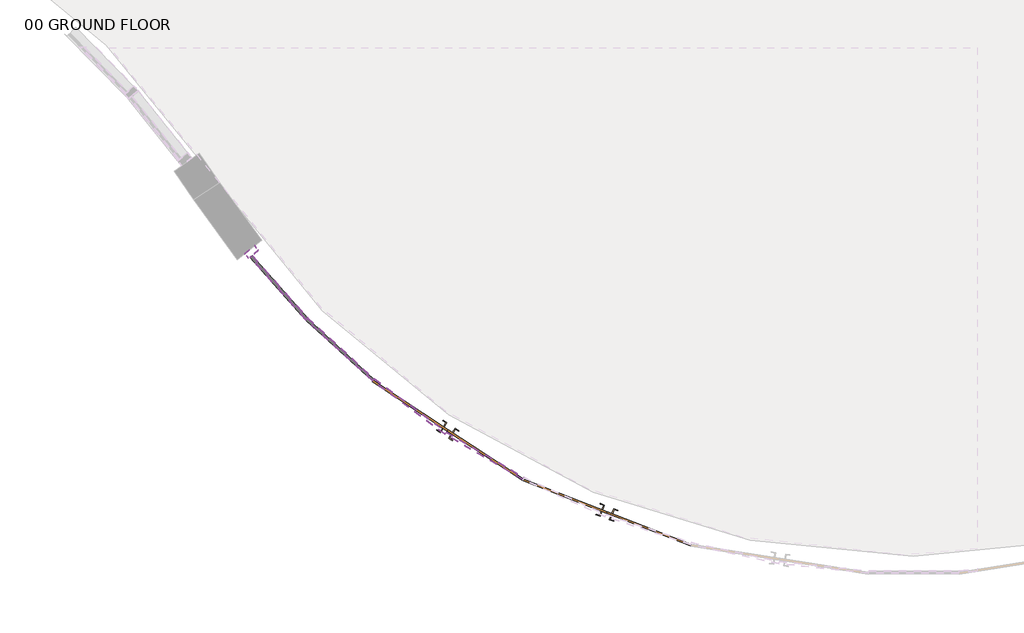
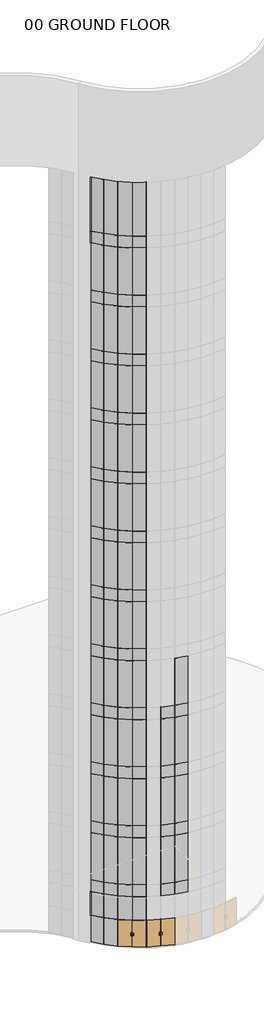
# One storey, part 1 of 33: 117 plates, 3 members, 2 doors.
"""IFC4 building model written with IfcOpenShell, lengths in millimetres."""

from ifc_helpers import new_model, si_unit, origin, place, context, project, spatial, transform, mapped, element, save
from components import door_curtain_wall_double_glass_door_curtain_wall_double_bdbd88c7, member_73c23c35, member_2fae0574, member_45b72dba, system_panel_su_blue_3eab7189, system_panel_su_blue_125f0d55, system_panel_su_blue_e3d46445, system_panel_su_blue_33e27b82, system_panel_su_blue_8cdae4af, system_panel_su_blue_3064f965, system_panel_su_blue_775d8c72, system_panel_su_blue_5a18cedf, system_panel_su_blue_751729b9, system_panel_su_blue_3781345d

model = new_model("IFC4")

# Units and contexts
model_context = context("Model", 3, world=origin())
ifc_project = project(units=[si_unit("LENGTHUNIT", "METRE", prefix="MILLI")], contexts=[model_context])

# Site, building, storey
site = spatial("IfcSite", under=ifc_project)
building = spatial("IfcBuilding", under=site)
storey = spatial("IfcBuildingStorey", under=building, Name="00 GROUND FLOOR", Elevation=0.0)

# Doors
placement = place(None, origin())
door_curtain_wall_double_glass_door_curtain_wall_double_shape = door_curtain_wall_double_glass_door_curtain_wall_double_bdbd88c7(model_context)
element("IfcDoor", 1, ObjectType="Door-Curtain-Wall-Double-Glass : Door-Curtain-Wall-Double-Glass", at=placement, inside=storey, context=model_context, shape_type="MappedRepresentation", body=[
    mapped(door_curtain_wall_double_glass_door_curtain_wall_double_shape, transform((26632.1972259, -3132.6589511, 63.5), x_axis=(-0.9321966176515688, 0.3619522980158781, 0.0), y_axis=(-0.3619522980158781, -0.9321966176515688, 0.0), z_axis=(0.0, 0.0, 1.0))),
])
element("IfcDoor", 2, ObjectType="Door-Curtain-Wall-Double-Glass : Door-Curtain-Wall-Double-Glass", at=placement, inside=storey, context=model_context, shape_type="MappedRepresentation", body=[
    mapped(door_curtain_wall_double_glass_door_curtain_wall_double_shape, transform((25034.6342251, -2308.6939953, 63.5), x_axis=(-0.8353669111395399, 0.5496927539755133, 0.0), y_axis=(-0.5496927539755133, -0.8353669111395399, 0.0), z_axis=(0.0, 0.0, 1.0))),
])

# Members
member_shape = member_73c23c35(model_context)
element("IfcMember", 3, ObjectType="Rectangular Mullion : 2.5\" x 5\" rectangular", at=placement, inside=storey, context=model_context, shape_type="MappedRepresentation", body=[
    mapped(member_shape, transform((23011.9806142, -523.1917118, 54254.4), x_axis=(-0.6625784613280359, 0.748992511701, 0.0), y_axis=(0.748992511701, 0.6625784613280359, 0.0), z_axis=(0.0, 0.0, -1.0))),
])
member_2_shape = member_2fae0574(model_context)
element("IfcMember", 4, ObjectType="Rectangular Mullion : 2.5\" x 5\" rectangular", at=placement, inside=storey, context=model_context, shape_type="MappedRepresentation", body=[
    mapped(member_2_shape, transform((23011.9806142, -523.1917118, 2133.6), x_axis=(-0.662578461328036, 0.7489925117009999, 0.0), y_axis=(0.7489925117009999, 0.662578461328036, 0.0), z_axis=(0.0, 0.0, -1.0))),
])
member_3_shape = member_45b72dba(model_context)
element("IfcMember", 5, ObjectType="Rectangular Mullion : 2.5\" x 5\" rectangular", at=placement, inside=storey, context=model_context, shape_type="MappedRepresentation", body=[
    mapped(member_3_shape, transform((23011.9806142, -523.1917118, 55168.8), x_axis=(-0.662578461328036, 0.7489925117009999, 0.0), y_axis=(0.7489925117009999, 0.662578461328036, 0.0), z_axis=(0.0, 0.0, -1.0))),
])

# Plates
system_panel_su_blue_shape = system_panel_su_blue_3eab7189(model_context)
element("IfcPlate", 6, ObjectType="System Panel : SU_BLUE", at=placement, inside=storey, context=model_context, shape_type="MappedRepresentation", body=[
    mapped(system_panel_su_blue_shape, transform((23332.8636025, -885.9245342, 63.5), x_axis=(-0.6625784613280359, 0.748992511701, 0.0), y_axis=(-0.748992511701, -0.6625784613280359, 0.0), z_axis=(0.0, 0.0, 1.0))),
])
system_panel_su_blue_2_shape = system_panel_su_blue_125f0d55(model_context)
element("IfcPlate", 7, ObjectType="System Panel : SU_BLUE", at=placement, inside=storey, context=model_context, shape_type="MappedRepresentation", body=[
    mapped(system_panel_su_blue_2_shape, transform((23945.641999, -1506.4829309, 63.5), x_axis=(-0.7379810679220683, 0.6748214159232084, 0.0), y_axis=(-0.6748214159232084, -0.7379810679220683, 0.0), z_axis=(0.0, 0.0, 1.0))),
])
system_panel_su_blue_3_shape = system_panel_su_blue_e3d46445(model_context)
element("IfcPlate", 8, ObjectType="System Panel : SU_BLUE", at=placement, inside=storey, context=model_context, shape_type="MappedRepresentation", body=[
    mapped(system_panel_su_blue_3_shape, transform((23332.8636025, -885.9245342, 3962.4), x_axis=(-0.6625784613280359, 0.748992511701, 0.0), y_axis=(-0.748992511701, -0.6625784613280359, 0.0), z_axis=(0.0, 0.0, 1.0))),
])
element("IfcPlate", 9, ObjectType="System Panel : SU_BLUE", at=placement, inside=storey, context=model_context, shape_type="MappedRepresentation", body=[
    mapped(system_panel_su_blue_3_shape, transform((23332.8636025, -885.9245342, 8534.4), x_axis=(-0.6625784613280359, 0.748992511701, 0.0), y_axis=(-0.748992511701, -0.6625784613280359, 0.0), z_axis=(0.0, 0.0, 1.0))),
])
element("IfcPlate", 10, ObjectType="System Panel : SU_BLUE", at=placement, inside=storey, context=model_context, shape_type="MappedRepresentation", body=[
    mapped(system_panel_su_blue_3_shape, transform((23332.8636025, -885.9245342, 13106.4), x_axis=(-0.6625784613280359, 0.748992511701, 0.0), y_axis=(-0.748992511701, -0.6625784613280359, 0.0), z_axis=(0.0, 0.0, 1.0))),
])
element("IfcPlate", 11, ObjectType="System Panel : SU_BLUE", at=placement, inside=storey, context=model_context, shape_type="MappedRepresentation", body=[
    mapped(system_panel_su_blue_3_shape, transform((23332.8636025, -885.9245342, 17678.4), x_axis=(-0.6625784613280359, 0.748992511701, 0.0), y_axis=(-0.748992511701, -0.6625784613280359, 0.0), z_axis=(0.0, 0.0, 1.0))),
])
element("IfcPlate", 12, ObjectType="System Panel : SU_BLUE", at=placement, inside=storey, context=model_context, shape_type="MappedRepresentation", body=[
    mapped(system_panel_su_blue_3_shape, transform((23332.8636025, -885.9245342, 22250.4), x_axis=(-0.6625784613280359, 0.748992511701, 0.0), y_axis=(-0.748992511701, -0.6625784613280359, 0.0), z_axis=(0.0, 0.0, 1.0))),
])
element("IfcPlate", 13, ObjectType="System Panel : SU_BLUE", at=placement, inside=storey, context=model_context, shape_type="MappedRepresentation", body=[
    mapped(system_panel_su_blue_3_shape, transform((23332.8636025, -885.9245342, 26822.4), x_axis=(-0.6625784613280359, 0.748992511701, 0.0), y_axis=(-0.748992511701, -0.6625784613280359, 0.0), z_axis=(0.0, 0.0, 1.0))),
])
element("IfcPlate", 14, ObjectType="System Panel : SU_BLUE", at=placement, inside=storey, context=model_context, shape_type="MappedRepresentation", body=[
    mapped(system_panel_su_blue_3_shape, transform((23332.8636025, -885.9245342, 31394.4), x_axis=(-0.6625784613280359, 0.748992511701, 0.0), y_axis=(-0.748992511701, -0.6625784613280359, 0.0), z_axis=(0.0, 0.0, 1.0))),
])
element("IfcPlate", 15, ObjectType="System Panel : SU_BLUE", at=placement, inside=storey, context=model_context, shape_type="MappedRepresentation", body=[
    mapped(system_panel_su_blue_3_shape, transform((23332.8636025, -885.9245342, 35966.4), x_axis=(-0.6625784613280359, 0.748992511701, 0.0), y_axis=(-0.748992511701, -0.6625784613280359, 0.0), z_axis=(0.0, 0.0, 1.0))),
])
element("IfcPlate", 16, ObjectType="System Panel : SU_BLUE", at=placement, inside=storey, context=model_context, shape_type="MappedRepresentation", body=[
    mapped(system_panel_su_blue_3_shape, transform((23332.8636025, -885.9245342, 40538.4), x_axis=(-0.6625784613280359, 0.748992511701, 0.0), y_axis=(-0.748992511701, -0.6625784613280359, 0.0), z_axis=(0.0, 0.0, 1.0))),
])
element("IfcPlate", 17, ObjectType="System Panel : SU_BLUE", at=placement, inside=storey, context=model_context, shape_type="MappedRepresentation", body=[
    mapped(system_panel_su_blue_3_shape, transform((23332.8636025, -885.9245342, 45110.4), x_axis=(-0.6625784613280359, 0.748992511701, 0.0), y_axis=(-0.748992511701, -0.6625784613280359, 0.0), z_axis=(0.0, 0.0, 1.0))),
])
element("IfcPlate", 18, ObjectType="System Panel : SU_BLUE", at=placement, inside=storey, context=model_context, shape_type="MappedRepresentation", body=[
    mapped(system_panel_su_blue_3_shape, transform((23332.8636025, -885.9245342, 49682.4), x_axis=(-0.6625784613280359, 0.748992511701, 0.0), y_axis=(-0.748992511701, -0.6625784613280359, 0.0), z_axis=(0.0, 0.0, 1.0))),
])
element("IfcPlate", 19, ObjectType="System Panel : SU_BLUE", at=placement, inside=storey, context=model_context, shape_type="MappedRepresentation", body=[
    mapped(system_panel_su_blue_3_shape, transform((23332.8636025, -885.9245342, 54254.4), x_axis=(-0.6625784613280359, 0.748992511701, 0.0), y_axis=(-0.748992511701, -0.6625784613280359, 0.0), z_axis=(0.0, 0.0, 1.0))),
])
system_panel_su_blue_4_shape = system_panel_su_blue_33e27b82(model_context)
element("IfcPlate", 20, ObjectType="System Panel : SU_BLUE", at=placement, inside=storey, context=model_context, shape_type="MappedRepresentation", body=[
    mapped(system_panel_su_blue_4_shape, transform((27917.1846384, -3554.8603369, 3962.4), x_axis=(-0.977688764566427, 0.21005875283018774, 0.0), y_axis=(-0.21005875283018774, -0.977688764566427, 0.0), z_axis=(0.0, 0.0, 1.0))),
])
element("IfcPlate", 21, ObjectType="System Panel : SU_BLUE", at=placement, inside=storey, context=model_context, shape_type="MappedRepresentation", body=[
    mapped(system_panel_su_blue_4_shape, transform((27044.8047997, -3318.5388901, 3962.4), x_axis=(-0.9500336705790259, 0.31214744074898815, 0.0), y_axis=(-0.31214744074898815, -0.9500336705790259, 0.0), z_axis=(0.0, 0.0, 1.0))),
])
element("IfcPlate", 22, ObjectType="System Panel : SU_BLUE", at=placement, inside=storey, context=model_context, shape_type="MappedRepresentation", body=[
    mapped(system_panel_su_blue_4_shape, transform((25398.990306, -2577.0985555, 3962.4), x_axis=(-0.8632679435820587, 0.5047459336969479, 0.0), y_axis=(-0.5047459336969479, -0.8632679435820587, 0.0), z_axis=(0.0, 0.0, 1.0))),
])
element("IfcPlate", 23, ObjectType="System Panel : SU_BLUE", at=placement, inside=storey, context=model_context, shape_type="MappedRepresentation", body=[
    mapped(system_panel_su_blue_4_shape, transform((24643.9672206, -2080.27409, 3962.4), x_axis=(-0.8051279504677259, 0.593101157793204, 0.0), y_axis=(-0.593101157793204, -0.8051279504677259, 0.0), z_axis=(0.0, 0.0, 1.0))),
])
element("IfcPlate", 24, ObjectType="System Panel : SU_BLUE", at=placement, inside=storey, context=model_context, shape_type="MappedRepresentation", body=[
    mapped(system_panel_su_blue_4_shape, transform((23945.641999, -1506.4829309, 3962.4), x_axis=(-0.7379810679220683, 0.6748214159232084, 0.0), y_axis=(-0.6748214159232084, -0.7379810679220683, 0.0), z_axis=(0.0, 0.0, 1.0))),
])
element("IfcPlate", 25, ObjectType="System Panel : SU_BLUE", at=placement, inside=storey, context=model_context, shape_type="MappedRepresentation", body=[
    mapped(system_panel_su_blue_4_shape, transform((27917.1846384, -3554.8603369, 8534.4), x_axis=(-0.977688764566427, 0.21005875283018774, 0.0), y_axis=(-0.21005875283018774, -0.977688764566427, 0.0), z_axis=(0.0, 0.0, 1.0))),
])
element("IfcPlate", 26, ObjectType="System Panel : SU_BLUE", at=placement, inside=storey, context=model_context, shape_type="MappedRepresentation", body=[
    mapped(system_panel_su_blue_4_shape, transform((27044.8047997, -3318.5388901, 8534.4), x_axis=(-0.9500336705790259, 0.31214744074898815, 0.0), y_axis=(-0.31214744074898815, -0.9500336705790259, 0.0), z_axis=(0.0, 0.0, 1.0))),
])
element("IfcPlate", 27, ObjectType="System Panel : SU_BLUE", at=placement, inside=storey, context=model_context, shape_type="MappedRepresentation", body=[
    mapped(system_panel_su_blue_4_shape, transform((25398.990306, -2577.0985555, 8534.4), x_axis=(-0.8632679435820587, 0.5047459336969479, 0.0), y_axis=(-0.5047459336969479, -0.8632679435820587, 0.0), z_axis=(0.0, 0.0, 1.0))),
])
element("IfcPlate", 28, ObjectType="System Panel : SU_BLUE", at=placement, inside=storey, context=model_context, shape_type="MappedRepresentation", body=[
    mapped(system_panel_su_blue_4_shape, transform((24643.9672206, -2080.27409, 8534.4), x_axis=(-0.8051279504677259, 0.593101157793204, 0.0), y_axis=(-0.593101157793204, -0.8051279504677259, 0.0), z_axis=(0.0, 0.0, 1.0))),
])
element("IfcPlate", 29, ObjectType="System Panel : SU_BLUE", at=placement, inside=storey, context=model_context, shape_type="MappedRepresentation", body=[
    mapped(system_panel_su_blue_4_shape, transform((23945.641999, -1506.4829309, 8534.4), x_axis=(-0.7379810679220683, 0.6748214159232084, 0.0), y_axis=(-0.6748214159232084, -0.7379810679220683, 0.0), z_axis=(0.0, 0.0, 1.0))),
])
element("IfcPlate", 30, ObjectType="System Panel : SU_BLUE", at=placement, inside=storey, context=model_context, shape_type="MappedRepresentation", body=[
    mapped(system_panel_su_blue_4_shape, transform((27917.1846384, -3554.8603369, 13106.4), x_axis=(-0.977688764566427, 0.21005875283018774, 0.0), y_axis=(-0.21005875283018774, -0.977688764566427, 0.0), z_axis=(0.0, 0.0, 1.0))),
])
element("IfcPlate", 31, ObjectType="System Panel : SU_BLUE", at=placement, inside=storey, context=model_context, shape_type="MappedRepresentation", body=[
    mapped(system_panel_su_blue_4_shape, transform((27044.8047997, -3318.5388901, 13106.4), x_axis=(-0.9500336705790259, 0.31214744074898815, 0.0), y_axis=(-0.31214744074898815, -0.9500336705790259, 0.0), z_axis=(0.0, 0.0, 1.0))),
])
element("IfcPlate", 32, ObjectType="System Panel : SU_BLUE", at=placement, inside=storey, context=model_context, shape_type="MappedRepresentation", body=[
    mapped(system_panel_su_blue_4_shape, transform((25398.990306, -2577.0985555, 13106.4), x_axis=(-0.8632679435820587, 0.5047459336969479, 0.0), y_axis=(-0.5047459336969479, -0.8632679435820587, 0.0), z_axis=(0.0, 0.0, 1.0))),
])
element("IfcPlate", 33, ObjectType="System Panel : SU_BLUE", at=placement, inside=storey, context=model_context, shape_type="MappedRepresentation", body=[
    mapped(system_panel_su_blue_4_shape, transform((24643.9672206, -2080.27409, 13106.4), x_axis=(-0.8051279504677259, 0.593101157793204, 0.0), y_axis=(-0.593101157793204, -0.8051279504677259, 0.0), z_axis=(0.0, 0.0, 1.0))),
])
element("IfcPlate", 34, ObjectType="System Panel : SU_BLUE", at=placement, inside=storey, context=model_context, shape_type="MappedRepresentation", body=[
    mapped(system_panel_su_blue_4_shape, transform((23945.641999, -1506.4829309, 13106.4), x_axis=(-0.7379810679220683, 0.6748214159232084, 0.0), y_axis=(-0.6748214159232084, -0.7379810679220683, 0.0), z_axis=(0.0, 0.0, 1.0))),
])
element("IfcPlate", 35, ObjectType="System Panel : SU_BLUE", at=placement, inside=storey, context=model_context, shape_type="MappedRepresentation", body=[
    mapped(system_panel_su_blue_4_shape, transform((27917.1846384, -3554.8603369, 17678.4), x_axis=(-0.977688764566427, 0.21005875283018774, 0.0), y_axis=(-0.21005875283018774, -0.977688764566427, 0.0), z_axis=(0.0, 0.0, 1.0))),
])
element("IfcPlate", 36, ObjectType="System Panel : SU_BLUE", at=placement, inside=storey, context=model_context, shape_type="MappedRepresentation", body=[
    mapped(system_panel_su_blue_4_shape, transform((27044.8047997, -3318.5388901, 17678.4), x_axis=(-0.9500336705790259, 0.31214744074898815, 0.0), y_axis=(-0.31214744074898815, -0.9500336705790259, 0.0), z_axis=(0.0, 0.0, 1.0))),
])
element("IfcPlate", 37, ObjectType="System Panel : SU_BLUE", at=placement, inside=storey, context=model_context, shape_type="MappedRepresentation", body=[
    mapped(system_panel_su_blue_4_shape, transform((25398.990306, -2577.0985555, 17678.4), x_axis=(-0.8632679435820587, 0.5047459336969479, 0.0), y_axis=(-0.5047459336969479, -0.8632679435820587, 0.0), z_axis=(0.0, 0.0, 1.0))),
])
element("IfcPlate", 38, ObjectType="System Panel : SU_BLUE", at=placement, inside=storey, context=model_context, shape_type="MappedRepresentation", body=[
    mapped(system_panel_su_blue_4_shape, transform((24643.9672206, -2080.27409, 17678.4), x_axis=(-0.8051279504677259, 0.593101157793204, 0.0), y_axis=(-0.593101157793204, -0.8051279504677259, 0.0), z_axis=(0.0, 0.0, 1.0))),
])
element("IfcPlate", 39, ObjectType="System Panel : SU_BLUE", at=placement, inside=storey, context=model_context, shape_type="MappedRepresentation", body=[
    mapped(system_panel_su_blue_4_shape, transform((23945.641999, -1506.4829309, 17678.4), x_axis=(-0.7379810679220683, 0.6748214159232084, 0.0), y_axis=(-0.6748214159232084, -0.7379810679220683, 0.0), z_axis=(0.0, 0.0, 1.0))),
])
element("IfcPlate", 40, ObjectType="System Panel : SU_BLUE", at=placement, inside=storey, context=model_context, shape_type="MappedRepresentation", body=[
    mapped(system_panel_su_blue_4_shape, transform((25398.990306, -2577.0985555, 22250.4), x_axis=(-0.8632679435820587, 0.5047459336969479, 0.0), y_axis=(-0.5047459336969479, -0.8632679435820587, 0.0), z_axis=(0.0, 0.0, 1.0))),
])
element("IfcPlate", 41, ObjectType="System Panel : SU_BLUE", at=placement, inside=storey, context=model_context, shape_type="MappedRepresentation", body=[
    mapped(system_panel_su_blue_4_shape, transform((24643.9672206, -2080.27409, 22250.4), x_axis=(-0.8051279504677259, 0.593101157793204, 0.0), y_axis=(-0.593101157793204, -0.8051279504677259, 0.0), z_axis=(0.0, 0.0, 1.0))),
])
element("IfcPlate", 42, ObjectType="System Panel : SU_BLUE", at=placement, inside=storey, context=model_context, shape_type="MappedRepresentation", body=[
    mapped(system_panel_su_blue_4_shape, transform((23945.641999, -1506.4829309, 22250.4), x_axis=(-0.7379810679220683, 0.6748214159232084, 0.0), y_axis=(-0.6748214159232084, -0.7379810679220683, 0.0), z_axis=(0.0, 0.0, 1.0))),
])
element("IfcPlate", 43, ObjectType="System Panel : SU_BLUE", at=placement, inside=storey, context=model_context, shape_type="MappedRepresentation", body=[
    mapped(system_panel_su_blue_4_shape, transform((25398.990306, -2577.0985555, 26822.4), x_axis=(-0.8632679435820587, 0.5047459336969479, 0.0), y_axis=(-0.5047459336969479, -0.8632679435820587, 0.0), z_axis=(0.0, 0.0, 1.0))),
])
element("IfcPlate", 44, ObjectType="System Panel : SU_BLUE", at=placement, inside=storey, context=model_context, shape_type="MappedRepresentation", body=[
    mapped(system_panel_su_blue_4_shape, transform((24643.9672206, -2080.27409, 26822.4), x_axis=(-0.8051279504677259, 0.593101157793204, 0.0), y_axis=(-0.593101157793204, -0.8051279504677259, 0.0), z_axis=(0.0, 0.0, 1.0))),
])
element("IfcPlate", 45, ObjectType="System Panel : SU_BLUE", at=placement, inside=storey, context=model_context, shape_type="MappedRepresentation", body=[
    mapped(system_panel_su_blue_4_shape, transform((23945.641999, -1506.4829309, 26822.4), x_axis=(-0.7379810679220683, 0.6748214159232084, 0.0), y_axis=(-0.6748214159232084, -0.7379810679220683, 0.0), z_axis=(0.0, 0.0, 1.0))),
])
element("IfcPlate", 46, ObjectType="System Panel : SU_BLUE", at=placement, inside=storey, context=model_context, shape_type="MappedRepresentation", body=[
    mapped(system_panel_su_blue_4_shape, transform((25398.990306, -2577.0985555, 31394.4), x_axis=(-0.8632679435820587, 0.5047459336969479, 0.0), y_axis=(-0.5047459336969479, -0.8632679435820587, 0.0), z_axis=(0.0, 0.0, 1.0))),
])
element("IfcPlate", 47, ObjectType="System Panel : SU_BLUE", at=placement, inside=storey, context=model_context, shape_type="MappedRepresentation", body=[
    mapped(system_panel_su_blue_4_shape, transform((24643.9672206, -2080.27409, 31394.4), x_axis=(-0.8051279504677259, 0.593101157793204, 0.0), y_axis=(-0.593101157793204, -0.8051279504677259, 0.0), z_axis=(0.0, 0.0, 1.0))),
])
element("IfcPlate", 48, ObjectType="System Panel : SU_BLUE", at=placement, inside=storey, context=model_context, shape_type="MappedRepresentation", body=[
    mapped(system_panel_su_blue_4_shape, transform((23945.641999, -1506.4829309, 31394.4), x_axis=(-0.7379810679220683, 0.6748214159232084, 0.0), y_axis=(-0.6748214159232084, -0.7379810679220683, 0.0), z_axis=(0.0, 0.0, 1.0))),
])
element("IfcPlate", 49, ObjectType="System Panel : SU_BLUE", at=placement, inside=storey, context=model_context, shape_type="MappedRepresentation", body=[
    mapped(system_panel_su_blue_4_shape, transform((25398.990306, -2577.0985555, 35966.4), x_axis=(-0.8632679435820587, 0.5047459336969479, 0.0), y_axis=(-0.5047459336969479, -0.8632679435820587, 0.0), z_axis=(0.0, 0.0, 1.0))),
])
element("IfcPlate", 50, ObjectType="System Panel : SU_BLUE", at=placement, inside=storey, context=model_context, shape_type="MappedRepresentation", body=[
    mapped(system_panel_su_blue_4_shape, transform((24643.9672206, -2080.27409, 35966.4), x_axis=(-0.8051279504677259, 0.593101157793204, 0.0), y_axis=(-0.593101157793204, -0.8051279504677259, 0.0), z_axis=(0.0, 0.0, 1.0))),
])
element("IfcPlate", 51, ObjectType="System Panel : SU_BLUE", at=placement, inside=storey, context=model_context, shape_type="MappedRepresentation", body=[
    mapped(system_panel_su_blue_4_shape, transform((23945.641999, -1506.4829309, 35966.4), x_axis=(-0.7379810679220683, 0.6748214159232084, 0.0), y_axis=(-0.6748214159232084, -0.7379810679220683, 0.0), z_axis=(0.0, 0.0, 1.0))),
])
element("IfcPlate", 52, ObjectType="System Panel : SU_BLUE", at=placement, inside=storey, context=model_context, shape_type="MappedRepresentation", body=[
    mapped(system_panel_su_blue_4_shape, transform((25398.990306, -2577.0985555, 40538.4), x_axis=(-0.8632679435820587, 0.5047459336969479, 0.0), y_axis=(-0.5047459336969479, -0.8632679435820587, 0.0), z_axis=(0.0, 0.0, 1.0))),
])
element("IfcPlate", 53, ObjectType="System Panel : SU_BLUE", at=placement, inside=storey, context=model_context, shape_type="MappedRepresentation", body=[
    mapped(system_panel_su_blue_4_shape, transform((24643.9672206, -2080.27409, 40538.4), x_axis=(-0.8051279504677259, 0.593101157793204, 0.0), y_axis=(-0.593101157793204, -0.8051279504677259, 0.0), z_axis=(0.0, 0.0, 1.0))),
])
element("IfcPlate", 54, ObjectType="System Panel : SU_BLUE", at=placement, inside=storey, context=model_context, shape_type="MappedRepresentation", body=[
    mapped(system_panel_su_blue_4_shape, transform((23945.641999, -1506.4829309, 40538.4), x_axis=(-0.7379810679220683, 0.6748214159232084, 0.0), y_axis=(-0.6748214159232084, -0.7379810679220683, 0.0), z_axis=(0.0, 0.0, 1.0))),
])
element("IfcPlate", 55, ObjectType="System Panel : SU_BLUE", at=placement, inside=storey, context=model_context, shape_type="MappedRepresentation", body=[
    mapped(system_panel_su_blue_4_shape, transform((25398.990306, -2577.0985555, 45110.4), x_axis=(-0.8632679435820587, 0.5047459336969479, 0.0), y_axis=(-0.5047459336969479, -0.8632679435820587, 0.0), z_axis=(0.0, 0.0, 1.0))),
])
element("IfcPlate", 56, ObjectType="System Panel : SU_BLUE", at=placement, inside=storey, context=model_context, shape_type="MappedRepresentation", body=[
    mapped(system_panel_su_blue_4_shape, transform((24643.9672206, -2080.27409, 45110.4), x_axis=(-0.8051279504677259, 0.593101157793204, 0.0), y_axis=(-0.593101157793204, -0.8051279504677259, 0.0), z_axis=(0.0, 0.0, 1.0))),
])
element("IfcPlate", 57, ObjectType="System Panel : SU_BLUE", at=placement, inside=storey, context=model_context, shape_type="MappedRepresentation", body=[
    mapped(system_panel_su_blue_4_shape, transform((23945.641999, -1506.4829309, 45110.4), x_axis=(-0.7379810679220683, 0.6748214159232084, 0.0), y_axis=(-0.6748214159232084, -0.7379810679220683, 0.0), z_axis=(0.0, 0.0, 1.0))),
])
element("IfcPlate", 58, ObjectType="System Panel : SU_BLUE", at=placement, inside=storey, context=model_context, shape_type="MappedRepresentation", body=[
    mapped(system_panel_su_blue_4_shape, transform((25398.990306, -2577.0985555, 49682.4), x_axis=(-0.8632679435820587, 0.5047459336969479, 0.0), y_axis=(-0.5047459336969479, -0.8632679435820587, 0.0), z_axis=(0.0, 0.0, 1.0))),
])
element("IfcPlate", 59, ObjectType="System Panel : SU_BLUE", at=placement, inside=storey, context=model_context, shape_type="MappedRepresentation", body=[
    mapped(system_panel_su_blue_4_shape, transform((24643.9672206, -2080.27409, 49682.4), x_axis=(-0.8051279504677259, 0.593101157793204, 0.0), y_axis=(-0.593101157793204, -0.8051279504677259, 0.0), z_axis=(0.0, 0.0, 1.0))),
])
element("IfcPlate", 60, ObjectType="System Panel : SU_BLUE", at=placement, inside=storey, context=model_context, shape_type="MappedRepresentation", body=[
    mapped(system_panel_su_blue_4_shape, transform((23945.641999, -1506.4829309, 49682.4), x_axis=(-0.7379810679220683, 0.6748214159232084, 0.0), y_axis=(-0.6748214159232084, -0.7379810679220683, 0.0), z_axis=(0.0, 0.0, 1.0))),
])
element("IfcPlate", 61, ObjectType="System Panel : SU_BLUE", at=placement, inside=storey, context=model_context, shape_type="MappedRepresentation", body=[
    mapped(system_panel_su_blue_4_shape, transform((25398.990306, -2577.0985555, 54254.4), x_axis=(-0.8632679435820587, 0.5047459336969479, 0.0), y_axis=(-0.5047459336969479, -0.8632679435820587, 0.0), z_axis=(0.0, 0.0, 1.0))),
])
element("IfcPlate", 62, ObjectType="System Panel : SU_BLUE", at=placement, inside=storey, context=model_context, shape_type="MappedRepresentation", body=[
    mapped(system_panel_su_blue_4_shape, transform((24643.9672206, -2080.27409, 54254.4), x_axis=(-0.8051279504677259, 0.593101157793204, 0.0), y_axis=(-0.593101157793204, -0.8051279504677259, 0.0), z_axis=(0.0, 0.0, 1.0))),
])
element("IfcPlate", 63, ObjectType="System Panel : SU_BLUE", at=placement, inside=storey, context=model_context, shape_type="MappedRepresentation", body=[
    mapped(system_panel_su_blue_4_shape, transform((23945.641999, -1506.4829309, 54254.4), x_axis=(-0.7379810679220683, 0.6748214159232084, 0.0), y_axis=(-0.6748214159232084, -0.7379810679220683, 0.0), z_axis=(0.0, 0.0, 1.0))),
])
system_panel_su_blue_5_shape = system_panel_su_blue_8cdae4af(model_context)
element("IfcPlate", 64, ObjectType="System Panel : SU_BLUE", at=placement, inside=storey, context=model_context, shape_type="MappedRepresentation", body=[
    mapped(system_panel_su_blue_5_shape, transform((23332.8636025, -885.9245342, 4876.8), x_axis=(-0.6625784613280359, 0.748992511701, 0.0), y_axis=(-0.748992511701, -0.6625784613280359, 0.0), z_axis=(0.0, 0.0, 1.0))),
])
element("IfcPlate", 65, ObjectType="System Panel : SU_BLUE", at=placement, inside=storey, context=model_context, shape_type="MappedRepresentation", body=[
    mapped(system_panel_su_blue_5_shape, transform((23332.8636025, -885.9245342, 9448.8), x_axis=(-0.6625784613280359, 0.748992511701, 0.0), y_axis=(-0.748992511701, -0.6625784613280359, 0.0), z_axis=(0.0, 0.0, 1.0))),
])
element("IfcPlate", 66, ObjectType="System Panel : SU_BLUE", at=placement, inside=storey, context=model_context, shape_type="MappedRepresentation", body=[
    mapped(system_panel_su_blue_5_shape, transform((23332.8636025, -885.9245342, 14020.8), x_axis=(-0.6625784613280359, 0.748992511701, 0.0), y_axis=(-0.748992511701, -0.6625784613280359, 0.0), z_axis=(0.0, 0.0, 1.0))),
])
element("IfcPlate", 67, ObjectType="System Panel : SU_BLUE", at=placement, inside=storey, context=model_context, shape_type="MappedRepresentation", body=[
    mapped(system_panel_su_blue_5_shape, transform((23332.8636025, -885.9245342, 18592.8), x_axis=(-0.6625784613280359, 0.748992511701, 0.0), y_axis=(-0.748992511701, -0.6625784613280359, 0.0), z_axis=(0.0, 0.0, 1.0))),
])
element("IfcPlate", 68, ObjectType="System Panel : SU_BLUE", at=placement, inside=storey, context=model_context, shape_type="MappedRepresentation", body=[
    mapped(system_panel_su_blue_5_shape, transform((23332.8636025, -885.9245342, 23164.8), x_axis=(-0.6625784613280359, 0.748992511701, 0.0), y_axis=(-0.748992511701, -0.6625784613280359, 0.0), z_axis=(0.0, 0.0, 1.0))),
])
element("IfcPlate", 69, ObjectType="System Panel : SU_BLUE", at=placement, inside=storey, context=model_context, shape_type="MappedRepresentation", body=[
    mapped(system_panel_su_blue_5_shape, transform((23332.8636025, -885.9245342, 27736.8), x_axis=(-0.6625784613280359, 0.748992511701, 0.0), y_axis=(-0.748992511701, -0.6625784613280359, 0.0), z_axis=(0.0, 0.0, 1.0))),
])
element("IfcPlate", 70, ObjectType="System Panel : SU_BLUE", at=placement, inside=storey, context=model_context, shape_type="MappedRepresentation", body=[
    mapped(system_panel_su_blue_5_shape, transform((23332.8636025, -885.9245342, 32308.8), x_axis=(-0.6625784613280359, 0.748992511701, 0.0), y_axis=(-0.748992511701, -0.6625784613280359, 0.0), z_axis=(0.0, 0.0, 1.0))),
])
element("IfcPlate", 71, ObjectType="System Panel : SU_BLUE", at=placement, inside=storey, context=model_context, shape_type="MappedRepresentation", body=[
    mapped(system_panel_su_blue_5_shape, transform((23332.8636025, -885.9245342, 36880.8), x_axis=(-0.6625784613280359, 0.748992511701, 0.0), y_axis=(-0.748992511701, -0.6625784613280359, 0.0), z_axis=(0.0, 0.0, 1.0))),
])
element("IfcPlate", 72, ObjectType="System Panel : SU_BLUE", at=placement, inside=storey, context=model_context, shape_type="MappedRepresentation", body=[
    mapped(system_panel_su_blue_5_shape, transform((23332.8636025, -885.9245342, 41452.8), x_axis=(-0.6625784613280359, 0.748992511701, 0.0), y_axis=(-0.748992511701, -0.6625784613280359, 0.0), z_axis=(0.0, 0.0, 1.0))),
])
element("IfcPlate", 73, ObjectType="System Panel : SU_BLUE", at=placement, inside=storey, context=model_context, shape_type="MappedRepresentation", body=[
    mapped(system_panel_su_blue_5_shape, transform((23332.8636025, -885.9245342, 46024.8), x_axis=(-0.6625784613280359, 0.748992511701, 0.0), y_axis=(-0.748992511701, -0.6625784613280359, 0.0), z_axis=(0.0, 0.0, 1.0))),
])
element("IfcPlate", 74, ObjectType="System Panel : SU_BLUE", at=placement, inside=storey, context=model_context, shape_type="MappedRepresentation", body=[
    mapped(system_panel_su_blue_5_shape, transform((23332.8636025, -885.9245342, 50596.8), x_axis=(-0.6625784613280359, 0.748992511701, 0.0), y_axis=(-0.748992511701, -0.6625784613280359, 0.0), z_axis=(0.0, 0.0, 1.0))),
])
system_panel_su_blue_6_shape = system_panel_su_blue_3064f965(model_context)
element("IfcPlate", 75, ObjectType="System Panel : SU_BLUE", at=placement, inside=storey, context=model_context, shape_type="MappedRepresentation", body=[
    mapped(system_panel_su_blue_6_shape, transform((27917.1846384, -3554.8603369, 4876.8), x_axis=(-0.977688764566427, 0.21005875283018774, 0.0), y_axis=(-0.21005875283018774, -0.977688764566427, 0.0), z_axis=(0.0, 0.0, 1.0))),
])
element("IfcPlate", 76, ObjectType="System Panel : SU_BLUE", at=placement, inside=storey, context=model_context, shape_type="MappedRepresentation", body=[
    mapped(system_panel_su_blue_6_shape, transform((27044.8047997, -3318.5388901, 4876.8), x_axis=(-0.9500336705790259, 0.31214744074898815, 0.0), y_axis=(-0.31214744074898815, -0.9500336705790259, 0.0), z_axis=(0.0, 0.0, 1.0))),
])
element("IfcPlate", 77, ObjectType="System Panel : SU_BLUE", at=placement, inside=storey, context=model_context, shape_type="MappedRepresentation", body=[
    mapped(system_panel_su_blue_6_shape, transform((25398.990306, -2577.0985555, 4876.8), x_axis=(-0.8632679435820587, 0.5047459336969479, 0.0), y_axis=(-0.5047459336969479, -0.8632679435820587, 0.0), z_axis=(0.0, 0.0, 1.0))),
])
element("IfcPlate", 78, ObjectType="System Panel : SU_BLUE", at=placement, inside=storey, context=model_context, shape_type="MappedRepresentation", body=[
    mapped(system_panel_su_blue_6_shape, transform((24643.9672206, -2080.27409, 4876.8), x_axis=(-0.8051279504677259, 0.593101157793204, 0.0), y_axis=(-0.593101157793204, -0.8051279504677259, 0.0), z_axis=(0.0, 0.0, 1.0))),
])
element("IfcPlate", 79, ObjectType="System Panel : SU_BLUE", at=placement, inside=storey, context=model_context, shape_type="MappedRepresentation", body=[
    mapped(system_panel_su_blue_6_shape, transform((23945.641999, -1506.4829309, 4876.8), x_axis=(-0.7379810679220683, 0.6748214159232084, 0.0), y_axis=(-0.6748214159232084, -0.7379810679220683, 0.0), z_axis=(0.0, 0.0, 1.0))),
])
element("IfcPlate", 80, ObjectType="System Panel : SU_BLUE", at=placement, inside=storey, context=model_context, shape_type="MappedRepresentation", body=[
    mapped(system_panel_su_blue_6_shape, transform((27917.1846384, -3554.8603369, 9448.8), x_axis=(-0.977688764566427, 0.21005875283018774, 0.0), y_axis=(-0.21005875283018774, -0.977688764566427, 0.0), z_axis=(0.0, 0.0, 1.0))),
])
element("IfcPlate", 81, ObjectType="System Panel : SU_BLUE", at=placement, inside=storey, context=model_context, shape_type="MappedRepresentation", body=[
    mapped(system_panel_su_blue_6_shape, transform((27044.8047997, -3318.5388901, 9448.8), x_axis=(-0.9500336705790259, 0.31214744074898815, 0.0), y_axis=(-0.31214744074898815, -0.9500336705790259, 0.0), z_axis=(0.0, 0.0, 1.0))),
])
element("IfcPlate", 82, ObjectType="System Panel : SU_BLUE", at=placement, inside=storey, context=model_context, shape_type="MappedRepresentation", body=[
    mapped(system_panel_su_blue_6_shape, transform((25398.990306, -2577.0985555, 9448.8), x_axis=(-0.8632679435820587, 0.5047459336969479, 0.0), y_axis=(-0.5047459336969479, -0.8632679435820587, 0.0), z_axis=(0.0, 0.0, 1.0))),
])
element("IfcPlate", 83, ObjectType="System Panel : SU_BLUE", at=placement, inside=storey, context=model_context, shape_type="MappedRepresentation", body=[
    mapped(system_panel_su_blue_6_shape, transform((24643.9672206, -2080.27409, 9448.8), x_axis=(-0.8051279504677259, 0.593101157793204, 0.0), y_axis=(-0.593101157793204, -0.8051279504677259, 0.0), z_axis=(0.0, 0.0, 1.0))),
])
element("IfcPlate", 84, ObjectType="System Panel : SU_BLUE", at=placement, inside=storey, context=model_context, shape_type="MappedRepresentation", body=[
    mapped(system_panel_su_blue_6_shape, transform((23945.641999, -1506.4829309, 9448.8), x_axis=(-0.7379810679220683, 0.6748214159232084, 0.0), y_axis=(-0.6748214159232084, -0.7379810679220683, 0.0), z_axis=(0.0, 0.0, 1.0))),
])
element("IfcPlate", 85, ObjectType="System Panel : SU_BLUE", at=placement, inside=storey, context=model_context, shape_type="MappedRepresentation", body=[
    mapped(system_panel_su_blue_6_shape, transform((27917.1846384, -3554.8603369, 14020.8), x_axis=(-0.977688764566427, 0.21005875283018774, 0.0), y_axis=(-0.21005875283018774, -0.977688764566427, 0.0), z_axis=(0.0, 0.0, 1.0))),
])
element("IfcPlate", 86, ObjectType="System Panel : SU_BLUE", at=placement, inside=storey, context=model_context, shape_type="MappedRepresentation", body=[
    mapped(system_panel_su_blue_6_shape, transform((27044.8047997, -3318.5388901, 14020.8), x_axis=(-0.9500336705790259, 0.31214744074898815, 0.0), y_axis=(-0.31214744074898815, -0.9500336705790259, 0.0), z_axis=(0.0, 0.0, 1.0))),
])
element("IfcPlate", 87, ObjectType="System Panel : SU_BLUE", at=placement, inside=storey, context=model_context, shape_type="MappedRepresentation", body=[
    mapped(system_panel_su_blue_6_shape, transform((25398.990306, -2577.0985555, 14020.8), x_axis=(-0.8632679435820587, 0.5047459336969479, 0.0), y_axis=(-0.5047459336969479, -0.8632679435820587, 0.0), z_axis=(0.0, 0.0, 1.0))),
])
element("IfcPlate", 88, ObjectType="System Panel : SU_BLUE", at=placement, inside=storey, context=model_context, shape_type="MappedRepresentation", body=[
    mapped(system_panel_su_blue_6_shape, transform((24643.9672206, -2080.27409, 14020.8), x_axis=(-0.8051279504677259, 0.593101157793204, 0.0), y_axis=(-0.593101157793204, -0.8051279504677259, 0.0), z_axis=(0.0, 0.0, 1.0))),
])
element("IfcPlate", 89, ObjectType="System Panel : SU_BLUE", at=placement, inside=storey, context=model_context, shape_type="MappedRepresentation", body=[
    mapped(system_panel_su_blue_6_shape, transform((23945.641999, -1506.4829309, 14020.8), x_axis=(-0.7379810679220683, 0.6748214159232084, 0.0), y_axis=(-0.6748214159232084, -0.7379810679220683, 0.0), z_axis=(0.0, 0.0, 1.0))),
])
element("IfcPlate", 90, ObjectType="System Panel : SU_BLUE", at=placement, inside=storey, context=model_context, shape_type="MappedRepresentation", body=[
    mapped(system_panel_su_blue_6_shape, transform((27917.1846384, -3554.8603369, 18592.8), x_axis=(-0.977688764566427, 0.21005875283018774, 0.0), y_axis=(-0.21005875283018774, -0.977688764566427, 0.0), z_axis=(0.0, 0.0, 1.0))),
])
element("IfcPlate", 91, ObjectType="System Panel : SU_BLUE", at=placement, inside=storey, context=model_context, shape_type="MappedRepresentation", body=[
    mapped(system_panel_su_blue_6_shape, transform((25398.990306, -2577.0985555, 18592.8), x_axis=(-0.8632679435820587, 0.5047459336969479, 0.0), y_axis=(-0.5047459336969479, -0.8632679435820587, 0.0), z_axis=(0.0, 0.0, 1.0))),
])
element("IfcPlate", 92, ObjectType="System Panel : SU_BLUE", at=placement, inside=storey, context=model_context, shape_type="MappedRepresentation", body=[
    mapped(system_panel_su_blue_6_shape, transform((24643.9672206, -2080.27409, 18592.8), x_axis=(-0.8051279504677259, 0.593101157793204, 0.0), y_axis=(-0.593101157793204, -0.8051279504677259, 0.0), z_axis=(0.0, 0.0, 1.0))),
])
element("IfcPlate", 93, ObjectType="System Panel : SU_BLUE", at=placement, inside=storey, context=model_context, shape_type="MappedRepresentation", body=[
    mapped(system_panel_su_blue_6_shape, transform((23945.641999, -1506.4829309, 18592.8), x_axis=(-0.7379810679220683, 0.6748214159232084, 0.0), y_axis=(-0.6748214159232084, -0.7379810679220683, 0.0), z_axis=(0.0, 0.0, 1.0))),
])
element("IfcPlate", 94, ObjectType="System Panel : SU_BLUE", at=placement, inside=storey, context=model_context, shape_type="MappedRepresentation", body=[
    mapped(system_panel_su_blue_6_shape, transform((25398.990306, -2577.0985555, 23164.8), x_axis=(-0.8632679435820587, 0.5047459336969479, 0.0), y_axis=(-0.5047459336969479, -0.8632679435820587, 0.0), z_axis=(0.0, 0.0, 1.0))),
])
element("IfcPlate", 95, ObjectType="System Panel : SU_BLUE", at=placement, inside=storey, context=model_context, shape_type="MappedRepresentation", body=[
    mapped(system_panel_su_blue_6_shape, transform((24643.9672206, -2080.27409, 23164.8), x_axis=(-0.8051279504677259, 0.593101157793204, 0.0), y_axis=(-0.593101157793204, -0.8051279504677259, 0.0), z_axis=(0.0, 0.0, 1.0))),
])
element("IfcPlate", 96, ObjectType="System Panel : SU_BLUE", at=placement, inside=storey, context=model_context, shape_type="MappedRepresentation", body=[
    mapped(system_panel_su_blue_6_shape, transform((23945.641999, -1506.4829309, 23164.8), x_axis=(-0.7379810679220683, 0.6748214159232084, 0.0), y_axis=(-0.6748214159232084, -0.7379810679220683, 0.0), z_axis=(0.0, 0.0, 1.0))),
])
element("IfcPlate", 97, ObjectType="System Panel : SU_BLUE", at=placement, inside=storey, context=model_context, shape_type="MappedRepresentation", body=[
    mapped(system_panel_su_blue_6_shape, transform((25398.990306, -2577.0985555, 27736.8), x_axis=(-0.8632679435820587, 0.5047459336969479, 0.0), y_axis=(-0.5047459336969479, -0.8632679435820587, 0.0), z_axis=(0.0, 0.0, 1.0))),
])
element("IfcPlate", 98, ObjectType="System Panel : SU_BLUE", at=placement, inside=storey, context=model_context, shape_type="MappedRepresentation", body=[
    mapped(system_panel_su_blue_6_shape, transform((24643.9672206, -2080.27409, 27736.8), x_axis=(-0.8051279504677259, 0.593101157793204, 0.0), y_axis=(-0.593101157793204, -0.8051279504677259, 0.0), z_axis=(0.0, 0.0, 1.0))),
])
element("IfcPlate", 99, ObjectType="System Panel : SU_BLUE", at=placement, inside=storey, context=model_context, shape_type="MappedRepresentation", body=[
    mapped(system_panel_su_blue_6_shape, transform((23945.641999, -1506.4829309, 27736.8), x_axis=(-0.7379810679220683, 0.6748214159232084, 0.0), y_axis=(-0.6748214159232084, -0.7379810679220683, 0.0), z_axis=(0.0, 0.0, 1.0))),
])
element("IfcPlate", 100, ObjectType="System Panel : SU_BLUE", at=placement, inside=storey, context=model_context, shape_type="MappedRepresentation", body=[
    mapped(system_panel_su_blue_6_shape, transform((25398.990306, -2577.0985555, 32308.8), x_axis=(-0.8632679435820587, 0.5047459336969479, 0.0), y_axis=(-0.5047459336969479, -0.8632679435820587, 0.0), z_axis=(0.0, 0.0, 1.0))),
])
element("IfcPlate", 101, ObjectType="System Panel : SU_BLUE", at=placement, inside=storey, context=model_context, shape_type="MappedRepresentation", body=[
    mapped(system_panel_su_blue_6_shape, transform((24643.9672206, -2080.27409, 32308.8), x_axis=(-0.8051279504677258, 0.5931011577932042, 0.0), y_axis=(-0.5931011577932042, -0.8051279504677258, 0.0), z_axis=(0.0, 0.0, 1.0))),
])
element("IfcPlate", 102, ObjectType="System Panel : SU_BLUE", at=placement, inside=storey, context=model_context, shape_type="MappedRepresentation", body=[
    mapped(system_panel_su_blue_6_shape, transform((23945.641999, -1506.4829309, 32308.8), x_axis=(-0.7379810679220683, 0.6748214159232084, 0.0), y_axis=(-0.6748214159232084, -0.7379810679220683, 0.0), z_axis=(0.0, 0.0, 1.0))),
])
element("IfcPlate", 103, ObjectType="System Panel : SU_BLUE", at=placement, inside=storey, context=model_context, shape_type="MappedRepresentation", body=[
    mapped(system_panel_su_blue_6_shape, transform((25398.990306, -2577.0985555, 36880.8), x_axis=(-0.8632679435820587, 0.5047459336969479, 0.0), y_axis=(-0.5047459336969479, -0.8632679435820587, 0.0), z_axis=(0.0, 0.0, 1.0))),
])
element("IfcPlate", 104, ObjectType="System Panel : SU_BLUE", at=placement, inside=storey, context=model_context, shape_type="MappedRepresentation", body=[
    mapped(system_panel_su_blue_6_shape, transform((24643.9672206, -2080.27409, 36880.8), x_axis=(-0.805127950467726, 0.5931011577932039, 0.0), y_axis=(-0.5931011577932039, -0.805127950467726, 0.0), z_axis=(0.0, 0.0, 1.0))),
])
element("IfcPlate", 105, ObjectType="System Panel : SU_BLUE", at=placement, inside=storey, context=model_context, shape_type="MappedRepresentation", body=[
    mapped(system_panel_su_blue_6_shape, transform((23945.641999, -1506.4829309, 36880.8), x_axis=(-0.7379810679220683, 0.6748214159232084, 0.0), y_axis=(-0.6748214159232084, -0.7379810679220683, 0.0), z_axis=(0.0, 0.0, 1.0))),
])
element("IfcPlate", 106, ObjectType="System Panel : SU_BLUE", at=placement, inside=storey, context=model_context, shape_type="MappedRepresentation", body=[
    mapped(system_panel_su_blue_6_shape, transform((25398.990306, -2577.0985555, 41452.8), x_axis=(-0.8632679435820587, 0.5047459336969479, 0.0), y_axis=(-0.5047459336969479, -0.8632679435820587, 0.0), z_axis=(0.0, 0.0, 1.0))),
])
element("IfcPlate", 107, ObjectType="System Panel : SU_BLUE", at=placement, inside=storey, context=model_context, shape_type="MappedRepresentation", body=[
    mapped(system_panel_su_blue_6_shape, transform((24643.9672206, -2080.27409, 41452.8), x_axis=(-0.8051279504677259, 0.593101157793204, 0.0), y_axis=(-0.593101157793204, -0.8051279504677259, 0.0), z_axis=(0.0, 0.0, 1.0))),
])
element("IfcPlate", 108, ObjectType="System Panel : SU_BLUE", at=placement, inside=storey, context=model_context, shape_type="MappedRepresentation", body=[
    mapped(system_panel_su_blue_6_shape, transform((23945.641999, -1506.4829309, 41452.8), x_axis=(-0.7379810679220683, 0.6748214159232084, 0.0), y_axis=(-0.6748214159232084, -0.7379810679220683, 0.0), z_axis=(0.0, 0.0, 1.0))),
])
element("IfcPlate", 109, ObjectType="System Panel : SU_BLUE", at=placement, inside=storey, context=model_context, shape_type="MappedRepresentation", body=[
    mapped(system_panel_su_blue_6_shape, transform((25398.990306, -2577.0985555, 46024.8), x_axis=(-0.8632679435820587, 0.5047459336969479, 0.0), y_axis=(-0.5047459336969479, -0.8632679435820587, 0.0), z_axis=(0.0, 0.0, 1.0))),
])
element("IfcPlate", 110, ObjectType="System Panel : SU_BLUE", at=placement, inside=storey, context=model_context, shape_type="MappedRepresentation", body=[
    mapped(system_panel_su_blue_6_shape, transform((24643.9672206, -2080.27409, 46024.8), x_axis=(-0.8051279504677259, 0.593101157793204, 0.0), y_axis=(-0.593101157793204, -0.8051279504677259, 0.0), z_axis=(0.0, 0.0, 1.0))),
])
element("IfcPlate", 111, ObjectType="System Panel : SU_BLUE", at=placement, inside=storey, context=model_context, shape_type="MappedRepresentation", body=[
    mapped(system_panel_su_blue_6_shape, transform((23945.641999, -1506.4829309, 46024.8), x_axis=(-0.7379810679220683, 0.6748214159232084, 0.0), y_axis=(-0.6748214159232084, -0.7379810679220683, 0.0), z_axis=(0.0, 0.0, 1.0))),
])
element("IfcPlate", 112, ObjectType="System Panel : SU_BLUE", at=placement, inside=storey, context=model_context, shape_type="MappedRepresentation", body=[
    mapped(system_panel_su_blue_6_shape, transform((25398.990306, -2577.0985555, 50596.8), x_axis=(-0.8632679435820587, 0.5047459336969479, 0.0), y_axis=(-0.5047459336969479, -0.8632679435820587, 0.0), z_axis=(0.0, 0.0, 1.0))),
])
element("IfcPlate", 113, ObjectType="System Panel : SU_BLUE", at=placement, inside=storey, context=model_context, shape_type="MappedRepresentation", body=[
    mapped(system_panel_su_blue_6_shape, transform((24643.9672206, -2080.27409, 50596.8), x_axis=(-0.8051279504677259, 0.593101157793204, 0.0), y_axis=(-0.593101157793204, -0.8051279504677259, 0.0), z_axis=(0.0, 0.0, 1.0))),
])
element("IfcPlate", 114, ObjectType="System Panel : SU_BLUE", at=placement, inside=storey, context=model_context, shape_type="MappedRepresentation", body=[
    mapped(system_panel_su_blue_6_shape, transform((23945.641999, -1506.4829309, 50596.8), x_axis=(-0.7379810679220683, 0.6748214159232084, 0.0), y_axis=(-0.6748214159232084, -0.7379810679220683, 0.0), z_axis=(0.0, 0.0, 1.0))),
])
system_panel_su_blue_7_shape = system_panel_su_blue_775d8c72(model_context)
element("IfcPlate", 115, ObjectType="System Panel : SU_BLUE", at=placement, inside=storey, context=model_context, shape_type="MappedRepresentation", body=[
    mapped(system_panel_su_blue_7_shape, transform((23332.8636025, -885.9245342, 2133.6), x_axis=(-0.662578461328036, 0.7489925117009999, 0.0), y_axis=(-0.7489925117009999, -0.662578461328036, 0.0), z_axis=(0.0, 0.0, 1.0))),
])
system_panel_su_blue_8_shape = system_panel_su_blue_5a18cedf(model_context)
element("IfcPlate", 116, ObjectType="System Panel : SU_BLUE", at=placement, inside=storey, context=model_context, shape_type="MappedRepresentation", body=[
    mapped(system_panel_su_blue_8_shape, transform((25398.990306, -2577.0985555, 2133.6), x_axis=(-0.8632679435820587, 0.5047459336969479, 0.0), y_axis=(-0.5047459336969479, -0.8632679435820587, 0.0), z_axis=(0.0, 0.0, 1.0))),
])
element("IfcPlate", 117, ObjectType="System Panel : SU_BLUE", at=placement, inside=storey, context=model_context, shape_type="MappedRepresentation", body=[
    mapped(system_panel_su_blue_8_shape, transform((24643.9672206, -2080.27409, 2133.6), x_axis=(-0.8051279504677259, 0.593101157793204, 0.0), y_axis=(-0.593101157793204, -0.8051279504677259, 0.0), z_axis=(0.0, 0.0, 1.0))),
])
element("IfcPlate", 118, ObjectType="System Panel : SU_BLUE", at=placement, inside=storey, context=model_context, shape_type="MappedRepresentation", body=[
    mapped(system_panel_su_blue_8_shape, transform((23945.641999, -1506.4829309, 2133.6), x_axis=(-0.7379810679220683, 0.6748214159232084, 0.0), y_axis=(-0.6748214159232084, -0.7379810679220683, 0.0), z_axis=(0.0, 0.0, 1.0))),
])
system_panel_su_blue_9_shape = system_panel_su_blue_751729b9(model_context)
element("IfcPlate", 119, ObjectType="System Panel : SU_BLUE", at=placement, inside=storey, context=model_context, shape_type="MappedRepresentation", body=[
    mapped(system_panel_su_blue_9_shape, transform((23332.8636025, -885.9245342, 55168.8), x_axis=(-0.662578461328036, 0.7489925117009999, 0.0), y_axis=(-0.7489925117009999, -0.662578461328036, 0.0), z_axis=(0.0, 0.0, 1.0))),
])
system_panel_su_blue_10_shape = system_panel_su_blue_3781345d(model_context)
element("IfcPlate", 120, ObjectType="System Panel : SU_BLUE", at=placement, inside=storey, context=model_context, shape_type="MappedRepresentation", body=[
    mapped(system_panel_su_blue_10_shape, transform((25398.990306, -2577.0985555, 55168.8), x_axis=(-0.8632679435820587, 0.5047459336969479, 0.0), y_axis=(-0.5047459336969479, -0.8632679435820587, 0.0), z_axis=(0.0, 0.0, 1.0))),
])
element("IfcPlate", 121, ObjectType="System Panel : SU_BLUE", at=placement, inside=storey, context=model_context, shape_type="MappedRepresentation", body=[
    mapped(system_panel_su_blue_10_shape, transform((24643.9672206, -2080.27409, 55168.8), x_axis=(-0.8051279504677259, 0.593101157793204, 0.0), y_axis=(-0.593101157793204, -0.8051279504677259, 0.0), z_axis=(0.0, 0.0, 1.0))),
])
element("IfcPlate", 122, ObjectType="System Panel : SU_BLUE", at=placement, inside=storey, context=model_context, shape_type="MappedRepresentation", body=[
    mapped(system_panel_su_blue_10_shape, transform((23945.641999, -1506.4829309, 55168.8), x_axis=(-0.7379810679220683, 0.6748214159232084, 0.0), y_axis=(-0.6748214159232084, -0.7379810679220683, 0.0), z_axis=(0.0, 0.0, 1.0))),
])

save(model, "model.ifc")
